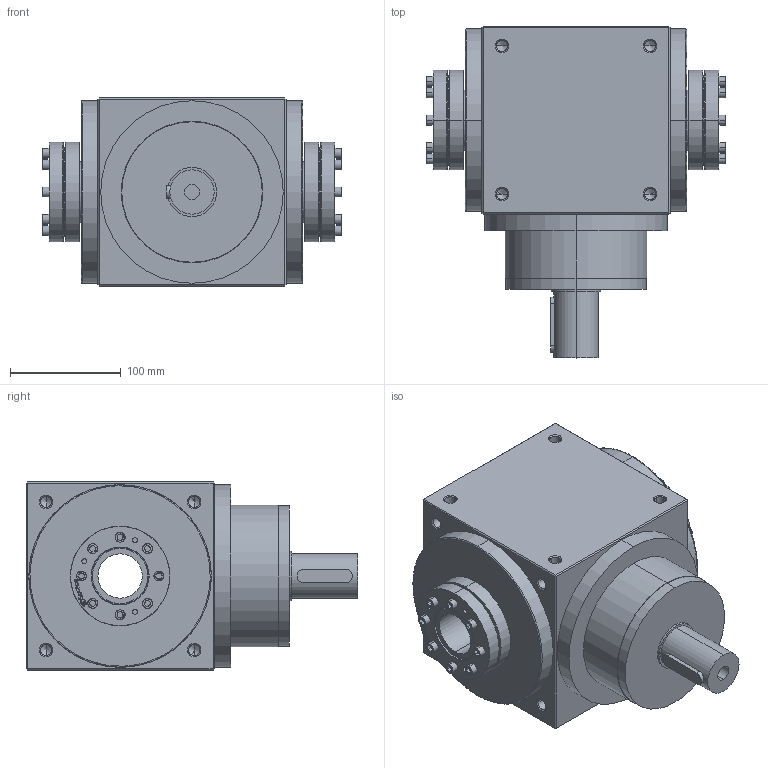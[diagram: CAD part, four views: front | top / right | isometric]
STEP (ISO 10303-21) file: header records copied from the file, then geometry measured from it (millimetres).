
FILE_DESCRIPTION (( 'STEP AP214' ), '1' );
FILE_NAME ('AT170-FC-L1-24-130-165-m10.STEP', '2020-11-13T05:52:56', ( '微软用户' ), ( '微软中国' ), 'SwSTEP 2.0', 'SolidWorks 2014', '' );
FILE_SCHEMA (( 'AUTOMOTIVE_DESIGN' ));
Length unit declared in the file: millimetre
Products named in the file (6): 83_50x90_2; AT170-FC-L1-24-130-165-m10_1; AT170-FC-L1-24-130-165-m10
Assembly tree (3 placements, depth 2):
  83_50x90_2
  AT170-FC-L1-24-130-165-m10_1
  AT170-FC-L1-24-130-165-m10
    AT170-FC-L1-24-130-165-m10_1
    83_50x90_2  x2
  83_50x90_2
Bounding box: 271.2 x 300 x 170 mm (x, y, z)
Volume: 6603908.5 mm3; surface area: 371057.5 mm2
Topology: 25 solids, 25 shells, 1193 faces, 2798 edges, 1674 vertices
Faces by surface type: cylinder 522, plane 301, cone 262, torus 64, bspline 44
Entity records: 21404 total; most frequent: CARTESIAN_POINT 5158, DIRECTION 3433, ORIENTED_EDGE 3308, EDGE_CURVE 1654, AXIS2_PLACEMENT_3D 1325, VERTEX_POINT 1001, EDGE_LOOP 819, LINE 783
